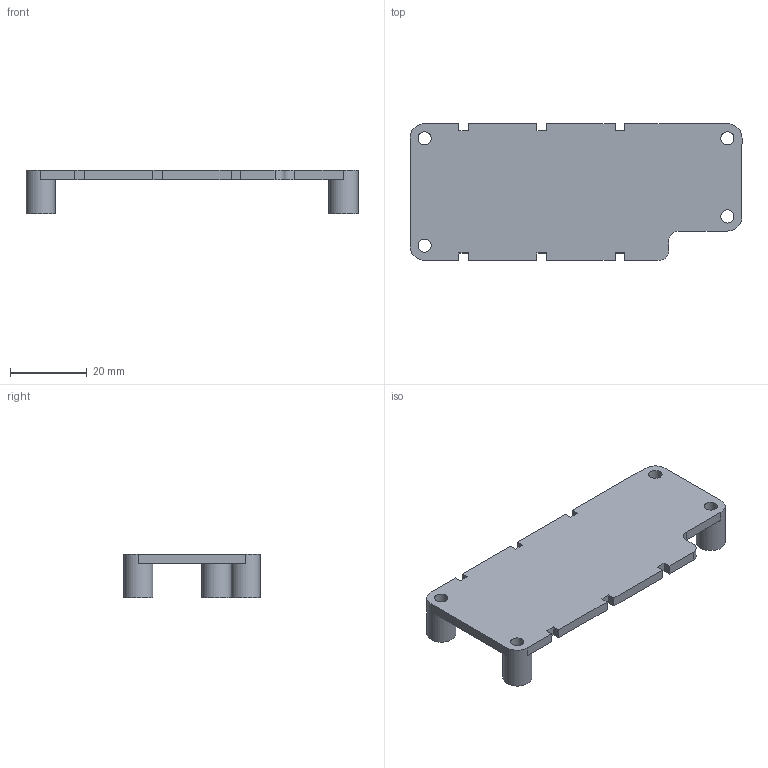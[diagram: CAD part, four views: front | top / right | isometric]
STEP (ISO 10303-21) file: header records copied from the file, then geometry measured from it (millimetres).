
FILE_DESCRIPTION (( 'STEP AP203' ), '1' );
FILE_NAME ('BateryMount.step', '2015-03-14T23:35:31', ( '' ), ( '' ), 'SwSTEP 2.0', 'SolidWorks 2013', '' );
FILE_SCHEMA (( 'CONFIG_CONTROL_DESIGN' ));
Length unit declared in the file: inch
Products named in the file (1): BateryMount
Bounding box: 86.36 x 35.56 x 11.43 mm (x, y, z)
Volume: 8519.3 mm3; surface area: 7696.3 mm2
Topology: 1 solids, 1 shells, 46 faces, 130 edges, 86 vertices
Faces by surface type: plane 36, cylinder 10
Full cylindrical faces by diameter (mm): 3.454 x4, 7.62 x4
Entity records: 1519 total; most frequent: CARTESIAN_POINT 251, ORIENTED_EDGE 240, DIRECTION 238, EDGE_CURVE 120, LINE 96, VECTOR 96, VERTEX_POINT 84, AXIS2_PLACEMENT_3D 71
